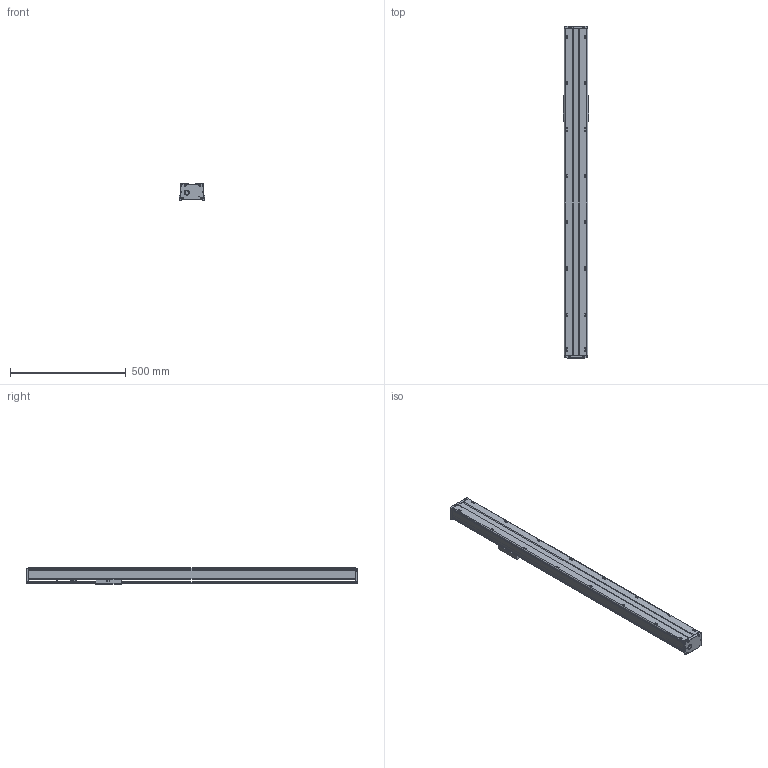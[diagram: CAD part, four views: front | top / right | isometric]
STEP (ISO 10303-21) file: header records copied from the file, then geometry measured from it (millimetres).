
FILE_DESCRIPTION(/* description */ (''),/* implementation_level */ '2;1');
FILE_NAME(/* name */ 'TKA100-1050A1FI_asm1.stp',/* time_stamp */ '2017-02-21T09:05:25+08:00',/* author */ (''),/* organization */ (''),/* preprocessor_version */ 'ST-DEVELOPER v15',/* originating_system */ 'SIEMENS PLM Software NX 8.5',/* authorisation */ '');
FILE_SCHEMA (('AUTOMOTIVE_DESIGN { 1 0 10303 214 3 1 1 1 }'));
Length unit declared in the file: millimetre
Products named in the file (3): 200-02; 200-01; TKA100-1050A1FI_asm1_stp
Assembly tree (2 placements, depth 2):
  TKA100-1050A1FI_asm1_stp
    200-01
    200-02
Bounding box: 110 x 1434 x 71 mm (x, y, z)
Volume: 2885700.6 mm3; surface area: 945343 mm2
Topology: 2 solids, 9 shells, 879 faces, 2280 edges, 1447 vertices
Faces by surface type: plane 363, cylinder 303, cone 153, torus 34, bspline 26
Full cylindrical faces by diameter (mm): 2.5 x4, 2.6 x8, 3.3 x8, 3.4 x4, 3.8 x4, 4.2 x25, 4.3 x4, 4.5 x4, 5 x1, 5.5 x28, 6.6 x4, 8 x5, 9 x4, 10 x16, 11 x4, 12 x7, 15.3 x1, 16 x1, 22 x1, 24 x1, 28 x5, 30 x1
Entity records: 31114 total; most frequent: CARTESIAN_POINT 10700, DIRECTION 4242, ORIENTED_EDGE 3938, EDGE_CURVE 1969, AXIS2_PLACEMENT_3D 1648, VERTEX_POINT 1364, EDGE_LOOP 1197, LINE 946
